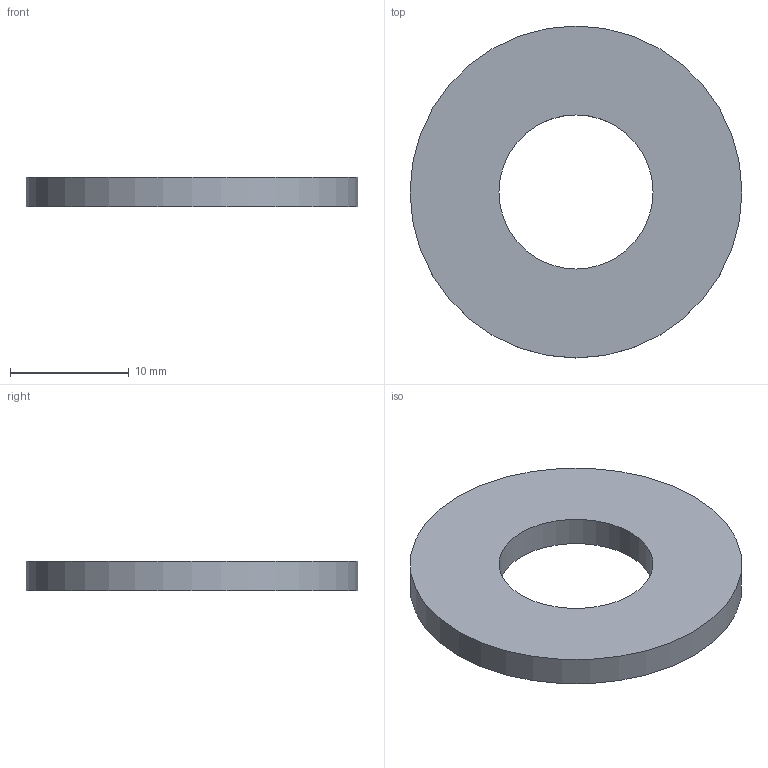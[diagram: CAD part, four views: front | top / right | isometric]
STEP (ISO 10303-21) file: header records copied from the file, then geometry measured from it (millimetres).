
FILE_DESCRIPTION(/* description */ (''),/* implementation_level */ '2;1');
FILE_NAME(/* name */ 'M12 Panel-Slot Washer - A2 Stainless Steel.step',/* time_stamp */ '2024-07-02T16:18:15+03:00',/* author */ (''),/* organization */ (''),/* preprocessor_version */ 'ST-DEVELOPER v20',/* originating_system */ 'Autodesk Translation Framework v13.14.0.145',/* authorisation */ '');
FILE_SCHEMA (('AUTOMOTIVE_DESIGN { 1 0 10303 214 3 1 1 }'));
Length unit declared in the file: millimetre
Products named in the file (1): M12 Panel/Slot Washer - A2 Stainless Steel
Bounding box: 28 x 28 x 2.5 mm (x, y, z)
Volume: 1207.5 mm3; surface area: 1288.1 mm2
Topology: 1 solids, 1 shells, 4 faces, 6 edges, 4 vertices
Faces by surface type: cylinder 2, plane 2
Full cylindrical faces by diameter (mm): 13 x1, 28 x1
Entity records: 131 total; most frequent: DIRECTION 20, CARTESIAN_POINT 15, ORIENTED_EDGE 12, AXIS2_PLACEMENT_3D 9, EDGE_LOOP 6, EDGE_CURVE 6, FACE_OUTER_BOUND 4, CIRCLE 4
